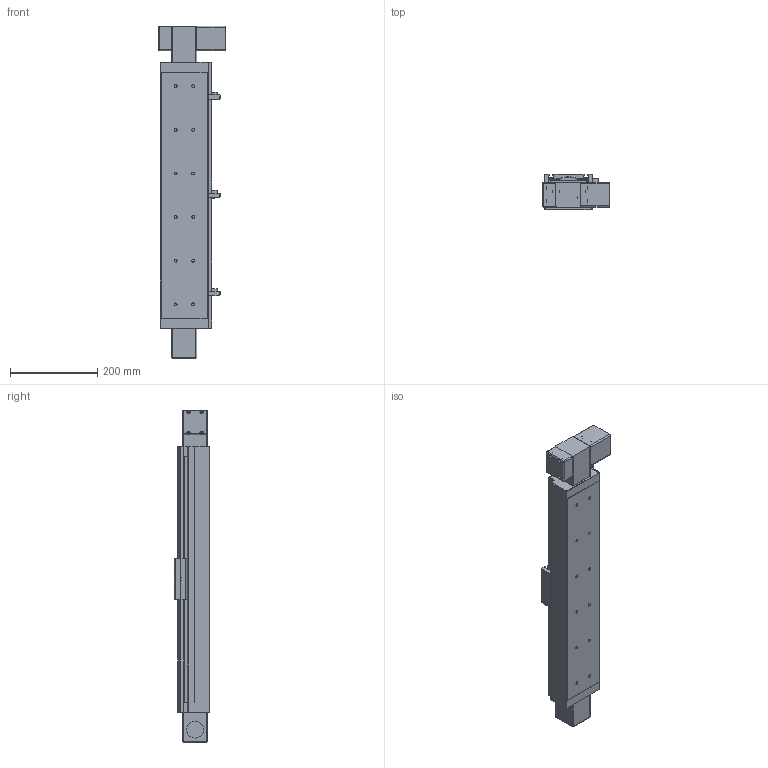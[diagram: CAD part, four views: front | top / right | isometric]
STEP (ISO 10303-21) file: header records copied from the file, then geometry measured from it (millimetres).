
FILE_DESCRIPTION((''),'2;1');
FILE_NAME('E:\uia actuator\UIA actuator 3d- 2015\Belt drive actuator\UIA110BR12(15)DC\UIA110BR12(15)DC-STEP FILE\UIA110BR12(15) stp file 13May16\UIA110BR12(15)DC-450-M23-P13-C10-S.stp','2016-05-13T15:42:23',('h029'),(''),'Autodesk Inventor 11','Autodesk Inventor 11','');
FILE_SCHEMA(('AUTOMOTIVE_DESIGN { 1 0 10303 214 1 1 1 1 }'));
Length unit declared in the file: millimetre
Products named in the file (11): UIA110BR12(15)DC-450; UIA110BR12(15)DC-450-body; UIA110BR12(15)DC-450-Sensor rail; UIA110B-Carriage; UIA110B- Sensor Flag; UIA110B-Cover; SOH-32C; SOH-32C-3; SOH-32C-1; SOH-32C-2; Motor mount
Assembly tree (10 placements, depth 3):
  UIA110BR12(15)DC-450
    UIA110BR12(15)DC-450-body
    UIA110BR12(15)DC-450-Sensor rail
    UIA110B-Carriage
    UIA110B- Sensor Flag
    UIA110B-Cover
    SOH-32C
      SOH-32C-3
      SOH-32C-1
      SOH-32C-2
    Motor mount
Bounding box: 152 x 81 x 761 mm (x, y, z)
Volume: 2595517.3 mm3; surface area: 685098.1 mm2
Topology: 9 solids, 13 shells, 724 faces, 2026 edges, 1304 vertices
Faces by surface type: plane 455, cylinder 179, cone 42, bspline 40, sphere 8
Full cylindrical faces by diameter (mm): 2.459 x4, 3 x2, 3.242 x8, 3.5 x4, 4 x10, 4.5 x4, 4.917 x8, 5 x2, 6.35 x1, 6.5 x12, 7.5 x4, 10 x3, 11 x12, 12 x1, 20 x2, 32 x3, 37 x1, 38.1 x1, 39 x2, 43.5 x1, 46 x2
Entity records: 23818 total; most frequent: CARTESIAN_POINT 5765, DIRECTION 3687, ORIENTED_EDGE 3534, EDGE_CURVE 1767, AXIS2_PLACEMENT_3D 1252, VERTEX_POINT 1216, VECTOR 1183, LINE 1183
